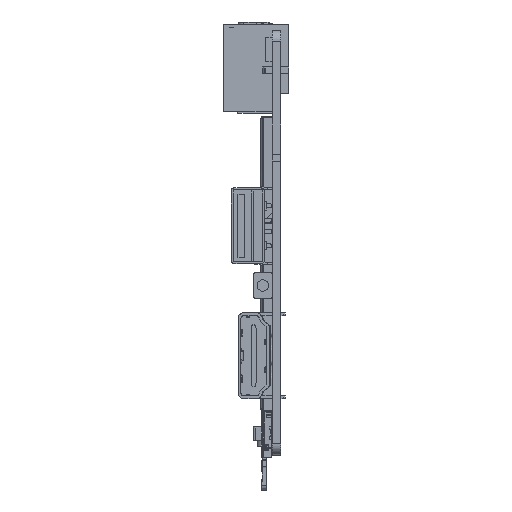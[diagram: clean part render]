
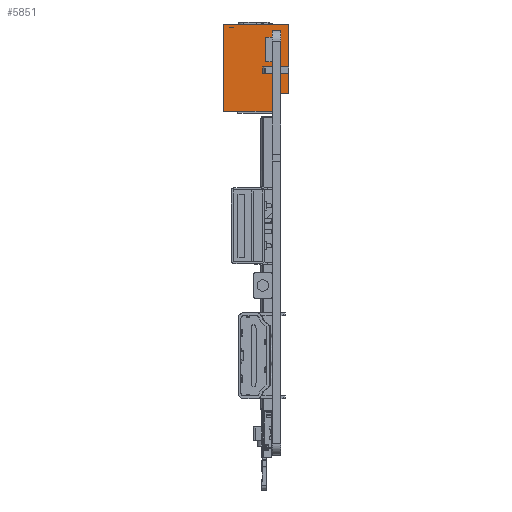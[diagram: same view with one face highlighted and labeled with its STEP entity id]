
A CAD part, left-side view. The second image highlights one B-rep face of the part: STEP entity #5851.
In plain terms, the highlighted planar face has unit normal (-1, 0, 0).
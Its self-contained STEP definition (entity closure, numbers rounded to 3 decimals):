
#4952=DIRECTION('',(0.,0.,-1.));
#4953=VECTOR('',#4952,3.15);
#4954=CARTESIAN_POINT('',(-8.1,-2.85,-12.05));
#4955=LINE('',#4954,#4953);
#4956=DIRECTION('',(0.,0.,1.));
#4957=VECTOR('',#4956,15.2);
#4958=CARTESIAN_POINT('',(-8.1,5.7,-15.2));
#4959=LINE('',#4958,#4957);
#4960=DIRECTION('',(0.,-1.,0.));
#4961=VECTOR('',#4960,11.4);
#4962=CARTESIAN_POINT('',(-8.1,5.7,0.));
#4963=LINE('',#4962,#4961);
#4964=DIRECTION('',(0.,0.,-1.));
#4965=VECTOR('',#4964,12.05);
#4966=CARTESIAN_POINT('',(-8.1,-5.7,0.));
#4967=LINE('',#4966,#4965);
#4968=DIRECTION('',(0.,1.,0.));
#4969=VECTOR('',#4968,0.253);
#4970=CARTESIAN_POINT('',(-8.1,-1.453,-7.435));
#4971=LINE('',#4970,#4969);
#4972=DIRECTION('',(0.,0.,-1.));
#4973=VECTOR('',#4972,1.176);
#4974=CARTESIAN_POINT('',(-8.1,-1.2,-7.435));
#4975=LINE('',#4974,#4973);
#4976=DIRECTION('',(0.,0.,-1.));
#4977=VECTOR('',#4976,4.3);
#4978=CARTESIAN_POINT('',(-8.1,-1.65,-2.25));
#4979=LINE('',#4978,#4977);
#4980=DIRECTION('',(0.,-1.,0.));
#4981=VECTOR('',#4980,1.2);
#4982=CARTESIAN_POINT('',(-8.1,-1.65,-6.55));
#4983=LINE('',#4982,#4981);
#4984=DIRECTION('',(0.,0.,1.));
#4985=VECTOR('',#4984,4.3);
#4986=CARTESIAN_POINT('',(-8.1,-2.85,-6.55));
#4987=LINE('',#4986,#4985);
#5000=DIRECTION('',(0.,-1.,0.));
#5001=VECTOR('',#5000,2.85);
#5002=CARTESIAN_POINT('',(-8.1,-2.85,-12.05));
#5003=LINE('',#5002,#5001);
#5060=DIRECTION('',(0.,-1.,0.));
#5061=VECTOR('',#5060,8.55);
#5062=CARTESIAN_POINT('',(-8.1,5.7,-15.2));
#5063=LINE('',#5062,#5061);
#5208=DIRECTION('',(0.,1.,0.));
#5209=VECTOR('',#5208,0.253);
#5210=CARTESIAN_POINT('',(-8.1,-1.453,-8.611));
#5211=LINE('',#5210,#5209);
#5248=DIRECTION('',(0.,0.,-1.));
#5249=VECTOR('',#5248,1.176);
#5250=CARTESIAN_POINT('',(-8.1,-1.453,-7.435));
#5251=LINE('',#5250,#5249);
#5256=DIRECTION('',(0.,-1.,0.));
#5257=VECTOR('',#5256,1.2);
#5258=CARTESIAN_POINT('',(-8.1,-1.65,-2.25));
#5259=LINE('',#5258,#5257);
#5488=CARTESIAN_POINT('',(-8.1,-5.7,0.));
#5489=VERTEX_POINT('',#5488);
#5490=CARTESIAN_POINT('',(-8.1,5.7,0.));
#5491=VERTEX_POINT('',#5490);
#5524=CARTESIAN_POINT('',(-8.1,5.7,-15.2));
#5525=VERTEX_POINT('',#5524);
#5528=CARTESIAN_POINT('',(-8.1,-2.85,-12.05));
#5529=CARTESIAN_POINT('',(-8.1,-2.85,-15.2));
#5530=VERTEX_POINT('',#5528);
#5531=VERTEX_POINT('',#5529);
#5532=CARTESIAN_POINT('',(-8.1,-5.7,-12.05));
#5533=VERTEX_POINT('',#5532);
#5534=CARTESIAN_POINT('',(-8.1,-1.453,-7.435));
#5535=CARTESIAN_POINT('',(-8.1,-1.2,-7.435));
#5536=VERTEX_POINT('',#5534);
#5537=VERTEX_POINT('',#5535);
#5538=CARTESIAN_POINT('',(-8.1,-1.2,-8.611));
#5539=VERTEX_POINT('',#5538);
#5540=CARTESIAN_POINT('',(-8.1,-1.453,-8.611));
#5541=VERTEX_POINT('',#5540);
#5542=CARTESIAN_POINT('',(-8.1,-1.65,-2.25));
#5543=CARTESIAN_POINT('',(-8.1,-2.85,-2.25));
#5544=VERTEX_POINT('',#5542);
#5545=VERTEX_POINT('',#5543);
#5546=CARTESIAN_POINT('',(-8.1,-1.65,-6.55));
#5547=VERTEX_POINT('',#5546);
#5548=CARTESIAN_POINT('',(-8.1,-2.85,-6.55));
#5549=VERTEX_POINT('',#5548);
#5814=CARTESIAN_POINT('',(-8.1,5.7,0.));
#5815=DIRECTION('',(-1.,0.,0.));
#5816=DIRECTION('',(0.,-1.,0.));
#5817=AXIS2_PLACEMENT_3D('',#5814,#5815,#5816);
#5818=PLANE('',#5817);
#5820=ORIENTED_EDGE('',*,*,#5819,.T.);
#5822=ORIENTED_EDGE('',*,*,#5821,.F.);
#5823=ORIENTED_EDGE('',*,*,#5792,.T.);
#5824=ORIENTED_EDGE('',*,*,#5701,.T.);
#5826=ORIENTED_EDGE('',*,*,#5825,.T.);
#5828=ORIENTED_EDGE('',*,*,#5827,.F.);
#5829=EDGE_LOOP('',(#5820,#5822,#5823,#5824,#5826,#5828));
#5830=FACE_OUTER_BOUND('',#5829,.F.);
#5832=ORIENTED_EDGE('',*,*,#5831,.T.);
#5834=ORIENTED_EDGE('',*,*,#5833,.T.);
#5836=ORIENTED_EDGE('',*,*,#5835,.F.);
#5838=ORIENTED_EDGE('',*,*,#5837,.F.);
#5839=EDGE_LOOP('',(#5832,#5834,#5836,#5838));
#5840=FACE_BOUND('',#5839,.F.);
#5842=ORIENTED_EDGE('',*,*,#5841,.F.);
#5844=ORIENTED_EDGE('',*,*,#5843,.T.);
#5846=ORIENTED_EDGE('',*,*,#5845,.T.);
#5848=ORIENTED_EDGE('',*,*,#5847,.T.);
#5849=EDGE_LOOP('',(#5842,#5844,#5846,#5848));
#5850=FACE_BOUND('',#5849,.F.);
#5851=ADVANCED_FACE('',(#5830,#5840,#5850),#5818,.T.);
#5701=EDGE_CURVE('',#5491,#5489,#4963,.T.);
#5792=EDGE_CURVE('',#5525,#5491,#4959,.T.);
#5819=EDGE_CURVE('',#5530,#5531,#4955,.T.);
#5821=EDGE_CURVE('',#5525,#5531,#5063,.T.);
#5825=EDGE_CURVE('',#5489,#5533,#4967,.T.);
#5827=EDGE_CURVE('',#5530,#5533,#5003,.T.);
#5831=EDGE_CURVE('',#5536,#5537,#4971,.T.);
#5833=EDGE_CURVE('',#5537,#5539,#4975,.T.);
#5835=EDGE_CURVE('',#5541,#5539,#5211,.T.);
#5837=EDGE_CURVE('',#5536,#5541,#5251,.T.);
#5841=EDGE_CURVE('',#5544,#5545,#5259,.T.);
#5843=EDGE_CURVE('',#5544,#5547,#4979,.T.);
#5845=EDGE_CURVE('',#5547,#5549,#4983,.T.);
#5847=EDGE_CURVE('',#5549,#5545,#4987,.T.);
